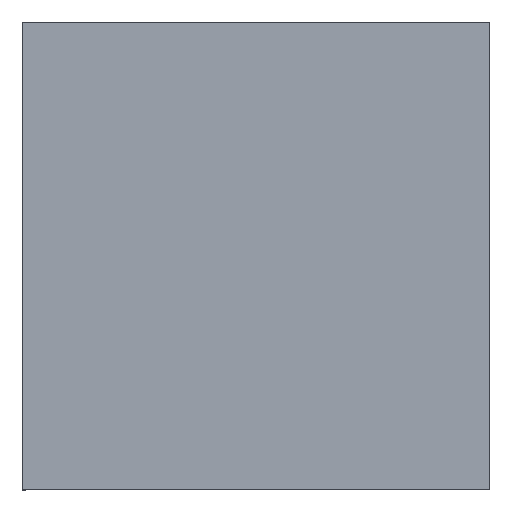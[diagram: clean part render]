
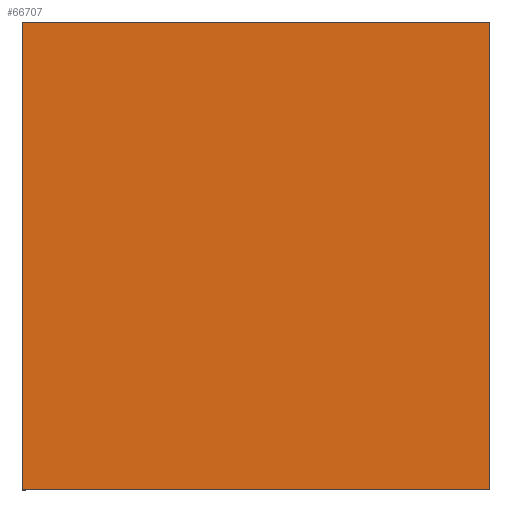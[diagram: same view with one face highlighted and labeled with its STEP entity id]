
A CAD part, top view. The second image highlights one B-rep face of the part: STEP entity #66707.
In plain terms, the highlighted planar face has unit normal (0, 0, 1).
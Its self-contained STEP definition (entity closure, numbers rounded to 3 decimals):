
#8339 = DIRECTION ( 'NONE',  ( 0., 0., -1. ) ) ;
#8350 = CARTESIAN_POINT ( 'NONE',  ( -6., -6., 1.586 ) ) ;
#9572 = EDGE_LOOP ( 'NONE', ( #11454, #101988, #48676, #16439 ) ) ;
#11454 = ORIENTED_EDGE ( 'NONE', *, *, #65959, .T. ) ;
#12039 = LINE ( 'NONE', #70273, #96893 ) ;
#16439 = ORIENTED_EDGE ( 'NONE', *, *, #81346, .T. ) ;
#19860 = CARTESIAN_POINT ( 'NONE',  ( -6., -6., 1.586 ) ) ;
#24739 = FACE_OUTER_BOUND ( 'NONE', #9572, .T. ) ;
#25206 = VECTOR ( 'NONE', #32815, 1000. ) ;
#25936 = AXIS2_PLACEMENT_3D ( 'NONE', #73244, #8339, #113959 ) ;
#30886 = LINE ( 'NONE', #90351, #25206 ) ;
#32815 = DIRECTION ( 'NONE',  ( 0., -1., 0. ) ) ;
#35809 = CARTESIAN_POINT ( 'NONE',  ( -6., 6., 1.586 ) ) ;
#48676 = ORIENTED_EDGE ( 'NONE', *, *, #56384, .T. ) ;
#50021 = VERTEX_POINT ( 'NONE', #112512 ) ;
#56384 = EDGE_CURVE ( 'NONE', #50021, #93239, #102425, .T. ) ;
#59950 = DIRECTION ( 'NONE',  ( 0., 1., 0. ) ) ;
#65959 = EDGE_CURVE ( 'NONE', #126735, #75540, #105353, .T. ) ;
#66542 = DIRECTION ( 'NONE',  ( 1., 0., 0. ) ) ;
#66707 = ADVANCED_FACE ( 'NONE', ( #24739 ), #102963, .F. ) ;
#70273 = CARTESIAN_POINT ( 'NONE',  ( 6., 6., 1.586 ) ) ;
#73244 = CARTESIAN_POINT ( 'NONE',  ( 0., 0., 1.586 ) ) ;
#74896 = VECTOR ( 'NONE', #66542, 1000. ) ;
#75540 = VERTEX_POINT ( 'NONE', #83470 ) ;
#81346 = EDGE_CURVE ( 'NONE', #93239, #126735, #30886, .T. ) ;
#83470 = CARTESIAN_POINT ( 'NONE',  ( 6., -6., 1.586 ) ) ;
#90351 = CARTESIAN_POINT ( 'NONE',  ( -6., 6., 1.586 ) ) ;
#93239 = VERTEX_POINT ( 'NONE', #119942 ) ;
#96893 = VECTOR ( 'NONE', #59950, 1000. ) ;
#101988 = ORIENTED_EDGE ( 'NONE', *, *, #115607, .T. ) ;
#102425 = LINE ( 'NONE', #35809, #125978 ) ;
#102963 = PLANE ( 'NONE',  #25936 ) ;
#105353 = LINE ( 'NONE', #8350, #74896 ) ;
#112512 = CARTESIAN_POINT ( 'NONE',  ( 6., 6., 1.586 ) ) ;
#112756 = DIRECTION ( 'NONE',  ( -1., 0., 0. ) ) ;
#113959 = DIRECTION ( 'NONE',  ( 0., -1., 0. ) ) ;
#115607 = EDGE_CURVE ( 'NONE', #75540, #50021, #12039, .T. ) ;
#119942 = CARTESIAN_POINT ( 'NONE',  ( -6., 6., 1.586 ) ) ;
#125978 = VECTOR ( 'NONE', #112756, 1000. ) ;
#126735 = VERTEX_POINT ( 'NONE', #19860 ) ;
